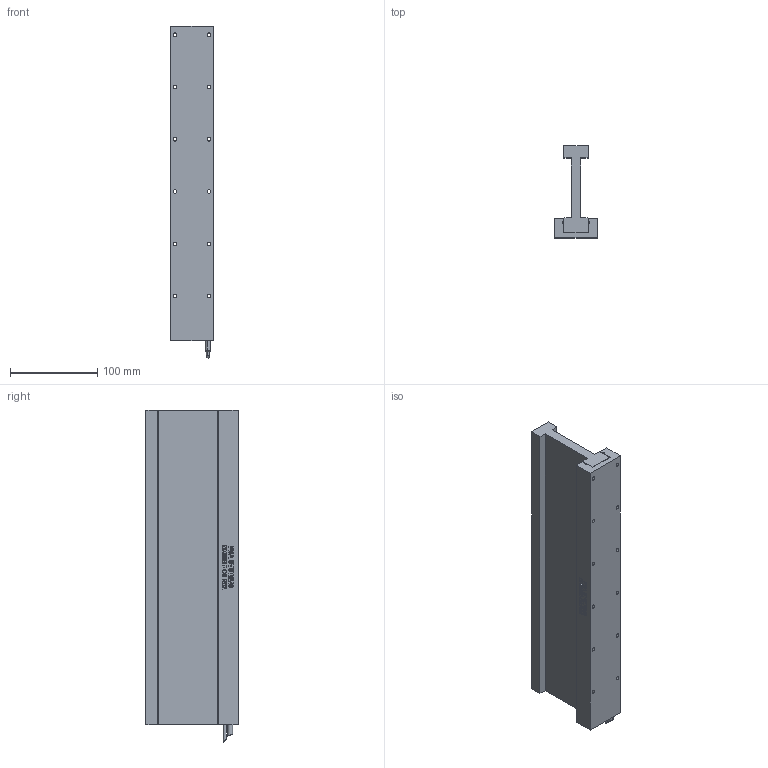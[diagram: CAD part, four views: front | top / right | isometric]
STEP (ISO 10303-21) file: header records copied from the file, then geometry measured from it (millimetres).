
FILE_DESCRIPTION (( 'STEP AP214' ), '1' );
FILE_NAME ('DX65BT-C6-000.STEP', '2016-05-09T09:11:47', ( '' ), ( '' ), 'SwSTEP 2.0', 'SolidWorks 2015', '' );
FILE_SCHEMA (( 'AUTOMOTIVE_DESIGN' ));
Length unit declared in the file: millimetre
Products named in the file (5): DX65BT-C6-001_CUSTOMER C6BT; DX65BT-C6-000; CBL_MTR_HALL_SS_5C_SA (#2935-1); CBL_MTR_PWR_SS_7C2C_SA (#2936-1); DX65B-CX-002_C6
Assembly tree (4 placements, depth 2):
  DX65BT-C6-000
    DX65BT-C6-001_CUSTOMER C6BT
    DX65B-CX-002_C6
    CBL_MTR_PWR_SS_7C2C_SA (#2936-1)
    CBL_MTR_HALL_SS_5C_SA (#2935-1)
Bounding box: 49 x 106 x 381 mm (x, y, z)
Volume: 810558.8 mm3; surface area: 175831 mm2
Topology: 4 solids, 4 shells, 736 faces, 1983 edges, 1322 vertices
Faces by surface type: plane 380, bspline 322, cylinder 34
Entity records: 40109 total; most frequent: CARTESIAN_POINT 23226, ORIENTED_EDGE 3966, DIRECTION 2245, EDGE_CURVE 1983, VERTEX_POINT 1322, LINE 1275, VECTOR 1275, EDGE_LOOP 827
